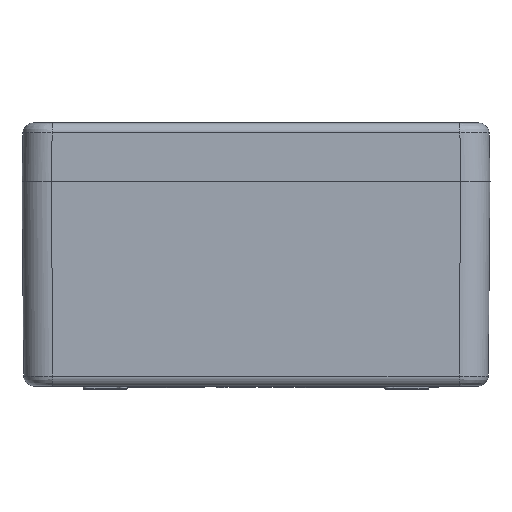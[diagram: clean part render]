
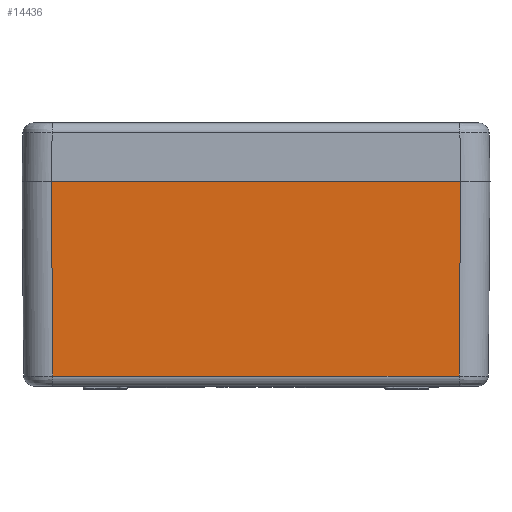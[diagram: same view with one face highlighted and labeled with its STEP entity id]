
A CAD part, left-side view. The second image highlights one B-rep face of the part: STEP entity #14436.
In plain terms, the highlighted planar face has unit normal (-1, 0, -0.009).
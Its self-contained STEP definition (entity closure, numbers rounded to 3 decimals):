
#566 = LINE ( 'NONE', #26475, #11082 ) ;
#1254 = VERTEX_POINT ( 'NONE', #19864 ) ;
#2128 = VECTOR ( 'NONE', #5151, 1000. ) ;
#3707 = EDGE_LOOP ( 'NONE', ( #6046, #8383, #17792, #27276 ) ) ;
#4795 = DIRECTION ( 'NONE',  ( -1., 0., -0.009 ) ) ;
#5062 = FACE_OUTER_BOUND ( 'NONE', #3707, .T. ) ;
#5151 = DIRECTION ( 'NONE',  ( 0., 1., 0. ) ) ;
#6046 = ORIENTED_EDGE ( 'NONE', *, *, #25025, .T. ) ;
#7206 = CARTESIAN_POINT ( 'NONE',  ( -80., -80., 0. ) ) ;
#7723 = PLANE ( 'NONE',  #19045 ) ;
#8220 = LINE ( 'NONE', #7206, #2128 ) ;
#8383 = ORIENTED_EDGE ( 'NONE', *, *, #27027, .T. ) ;
#8648 = DIRECTION ( 'NONE',  ( -0.009, 0.009, 1. ) ) ;
#9408 = VERTEX_POINT ( 'NONE', #22346 ) ;
#9535 = VECTOR ( 'NONE', #8648, 1000. ) ;
#10418 = CARTESIAN_POINT ( 'NONE',  ( -79.419, -69.42, -66.531 ) ) ;
#10750 = VECTOR ( 'NONE', #18237, 1000. ) ;
#11082 = VECTOR ( 'NONE', #22042, 1000. ) ;
#12069 = CARTESIAN_POINT ( 'NONE',  ( -79.419, 69.42, -66.531 ) ) ;
#14036 = LINE ( 'NONE', #10418, #10750 ) ;
#14436 = ADVANCED_FACE ( 'NONE', ( #5062 ), #7723, .T. ) ;
#16043 = CARTESIAN_POINT ( 'NONE',  ( -79.989, 69.989, -1.309 ) ) ;
#16739 = VERTEX_POINT ( 'NONE', #27993 ) ;
#17792 = ORIENTED_EDGE ( 'NONE', *, *, #25898, .F. ) ;
#18237 = DIRECTION ( 'NONE',  ( -0.009, -0.009, 1. ) ) ;
#19045 = AXIS2_PLACEMENT_3D ( 'NONE', #27982, #4795, #33176 ) ;
#19864 = CARTESIAN_POINT ( 'NONE',  ( -80., 70., 0. ) ) ;
#22042 = DIRECTION ( 'NONE',  ( 0., 1., 0. ) ) ;
#22346 = CARTESIAN_POINT ( 'NONE',  ( -80., -70., 0. ) ) ;
#23482 = VERTEX_POINT ( 'NONE', #12069 ) ;
#25025 = EDGE_CURVE ( 'NONE', #16739, #9408, #14036, .T. ) ;
#25898 = EDGE_CURVE ( 'NONE', #23482, #1254, #30169, .T. ) ;
#26475 = CARTESIAN_POINT ( 'NONE',  ( -79.419, 80., -66.531 ) ) ;
#26742 = EDGE_CURVE ( 'NONE', #16739, #23482, #566, .T. ) ;
#27027 = EDGE_CURVE ( 'NONE', #9408, #1254, #8220, .T. ) ;
#27276 = ORIENTED_EDGE ( 'NONE', *, *, #26742, .F. ) ;
#27982 = CARTESIAN_POINT ( 'NONE',  ( -80., -80., 0. ) ) ;
#27993 = CARTESIAN_POINT ( 'NONE',  ( -79.419, -69.42, -66.531 ) ) ;
#30169 = LINE ( 'NONE', #16043, #9535 ) ;
#33176 = DIRECTION ( 'NONE',  ( -0.009, 0., 1. ) ) ;
